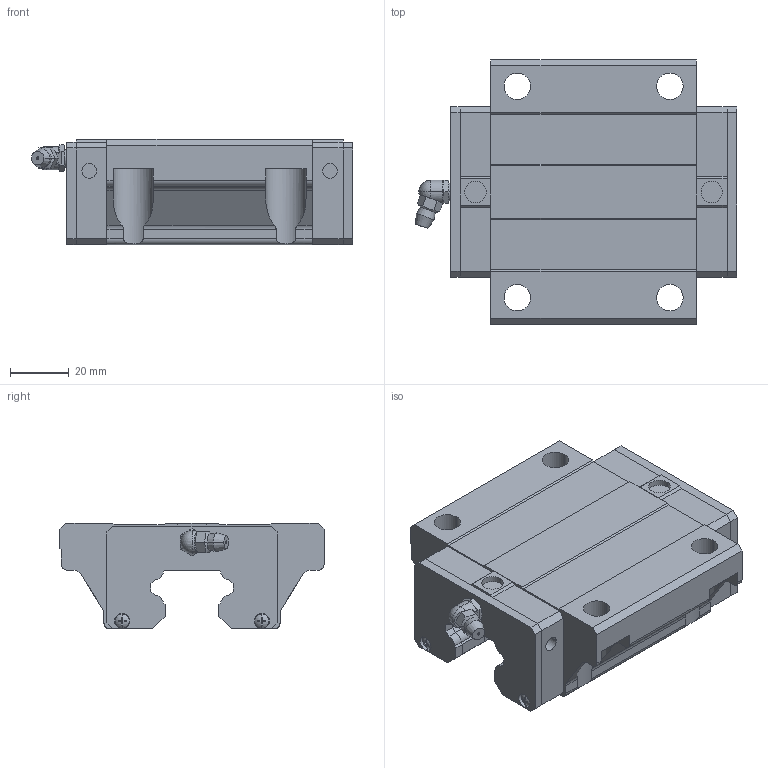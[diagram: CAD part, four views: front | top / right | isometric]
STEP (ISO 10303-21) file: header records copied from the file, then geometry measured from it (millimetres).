
FILE_DESCRIPTION(('starvars output'),'2;1');
FILE_NAME('cv20190626222250000041226.stp','22:22:50 2019/06/26',( 'Thomas Industrial Network Germany GmbH'),( 'Thomas Industrial Network Germany GmbH'),'unknown preprocess','ACIS' ,'unknown authorization');
FILE_SCHEMA(('CONFIG_CONTROL_DESIGN {UNKNOWN IMPLEMENTATION LEVEL}'));
Length unit declared in the file: millimetre
Products named in the file (10): PRODUCT_ID_1; PRODUCT_ID_2; PRODUCT_ID_3; PRODUCT_ID_4; PRODUCT_ID_5; PRODUCT_ID_6; PRODUCT_ID_7; PRODUCT_ID_8; PRODUCT_ID_9; PRODUCT_ID_10
Bounding box: 109.4 x 90 x 36 mm (x, y, z)
Volume: 193451.4 mm3; surface area: 46386.5 mm2
Topology: 10 solids, 10 shells, 393 faces, 1040 edges, 676 vertices
Faces by surface type: plane 262, cylinder 79, cone 40, sphere 12
Entity records: 11905 total; most frequent: CARTESIAN_POINT 2103, ORIENTED_EDGE 2072, DIRECTION 1597, EDGE_CURVE 1036, VERTEX_POINT 676, VECTOR 661, LINE 661, AXIS2_PLACEMENT_3D 468
